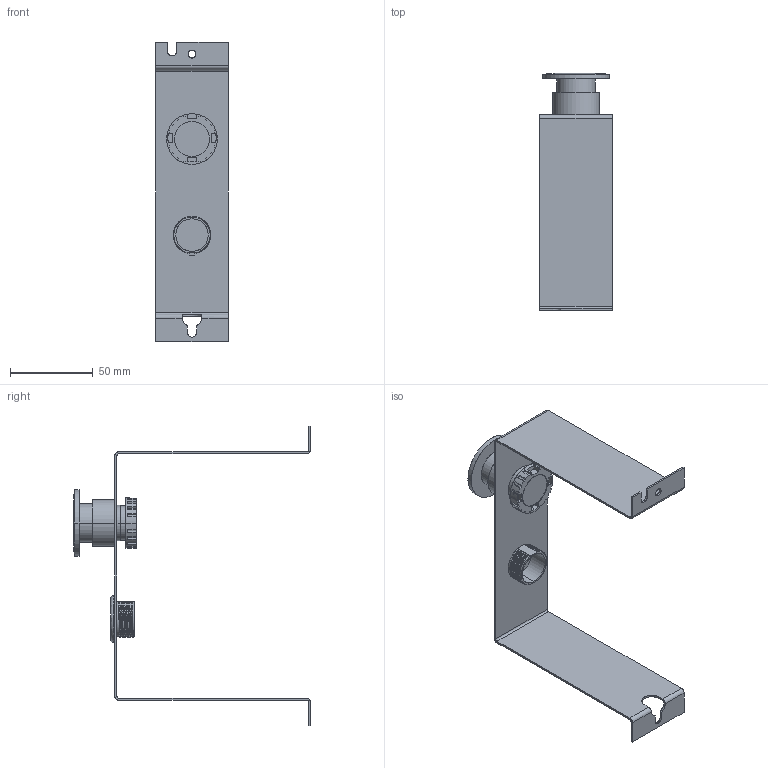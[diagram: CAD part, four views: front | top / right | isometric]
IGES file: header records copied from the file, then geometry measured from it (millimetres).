
Start section: SolidWorks IGES file using analytic representation for surfaces
Global section: file name: \\Brjgs100\dfsweg\GROUPS\BR_SC_JGS_WA_TECNICO\ENG\Usuarios\Rodrigob\conversão\Chave de Partida\Produto\Acessorios\KESW\KESWPE\KESWPE.IGS; native system: SolidWorks 2018; preprocessor: SolidWorks 2018; author: rodrigob; date: 200127.110220; units: millimetre
Bounding box: 44 x 143.1 x 180.8 mm (x, y, z)
Surface area: 46476.7 mm2 (no closed solid volume)
Topology: 0 solids, 0 shells, 246 faces, 3077 edges, 3074 vertices
Faces by surface type: bspline 182, revolution 64
